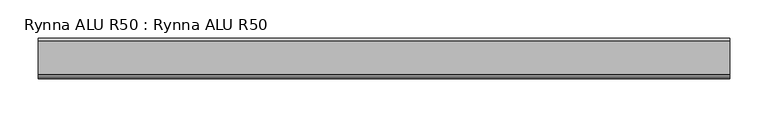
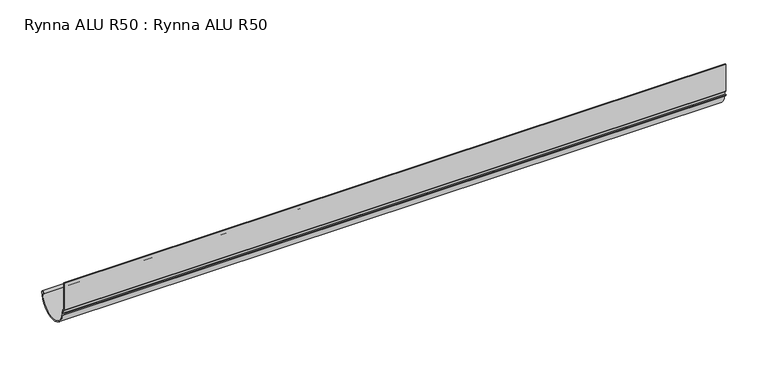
"""IFC4 building model written with IfcOpenShell, lengths in millimetres: proxy geometry, Rynna ALU R50 : Rynna ALU R50."""

from ifc_helpers import new_model, si_unit, point, frame, frame_2d, origin, place, context, project, spatial, polyline, circle_curve, trimmed, segment, composite_curve, outline, extrude, source, transform, mapped, element, save


def rynna_alu_r50_rynna_alu_r50_1e9a2309(model_context):
    return source(origin(), model_context, "Body", "SweptSolid", [
        extrude(outline(composite_curve([segment(polyline([(-0.6978396, 0.0), (0.7021617, 0.0), (0.7021617, -38.7702547), (3.0707013, -41.065916), (3.9370468, -46.8196069)]), True, "CONTINUOUS"), segment(trimmed(circle_curve(frame_2d((27.3646611, -44.302303)), 23.5624686), [point((3.9370468, -46.8196069))], [point((50.8512717, -46.1914952))], True, "CARTESIAN"), True, "CONTINUOUS"), segment(trimmed(circle_curve(frame_2d((50.3771937, -44.3000011)), 1.95), [point((50.8512717, -46.1914952))], [point((52.3271923, -44.302303))], False, "CARTESIAN"), True, "CONTINUOUS"), segment(trimmed(circle_curve(frame_2d((27.3646611, -44.302303)), 24.9625312), [point((52.3271923, -44.302303))], [point((2.6292486, -47.6619658))], False, "CARTESIAN"), True, "CONTINUOUS"), segment(polyline([(2.6292486, -47.6619658), (-0.1767814, -46.0765907), (-0.9565767, -44.1281649), (2.328284, -45.5225054), (1.8149767, -41.8701356), (-0.6978396, -39.5252625), (-0.6978396, 0.0)]), True, "CONTINUOUS")], self_intersect=False)), frame((-455.0, 0.0, 0.0), z_axis=(1.0, 0.0, 0.0), x_axis=(0.0, 1.0, 0.0)), (0.0, 0.0, 1.0), 910.0),
    ])


if __name__ == "__main__":
    model = new_model("IFC4")
    model_context = context("Model", 3, world=origin())
    ifc_project = project(units=[si_unit("LENGTHUNIT", "METRE", prefix="MILLI")], contexts=[model_context])
    site = spatial("IfcSite", under=ifc_project)
    building = spatial("IfcBuilding", under=site)
    placement = place(None, origin())
    rynna_alu_r50_rynna_alu_r50_shape = rynna_alu_r50_rynna_alu_r50_1e9a2309(model_context)
    element("IfcBuildingElementProxy", 1, Name="Rynna ALU R50 : Rynna ALU R50", ObjectType="Rynna ALU R50 : Rynna ALU R50", at=placement, inside=building, context=model_context, shape_type="MappedRepresentation", body=[
        mapped(rynna_alu_r50_rynna_alu_r50_shape, transform((0.0, 0.0, 0.0), x_axis=(1.0, 0.0, 0.0), y_axis=(0.0, 1.0, 0.0), z_axis=(0.0, 0.0, 1.0))),
    ])
    save(model, "model.ifc")
